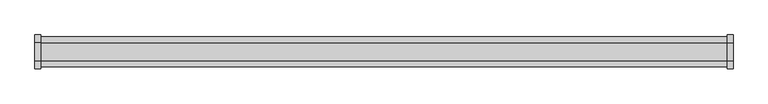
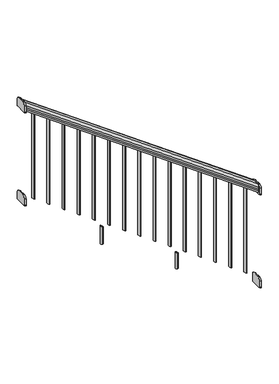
"""IFC4 building model written with IfcOpenShell, lengths in millimetres: railing geometry, NewTechWood - Westminister Gray."""

from ifc_helpers import new_model, si_unit, frame, origin, place, context, project, spatial, polyline, circle_curve, ellipse_curve, source, transform, mapped, element, save
from ifc_brep_helpers import plane_surface, cylinder_surface, revolved_surface, advanced_brep


def railing_d5dcb71c(model_context):
    return source(origin(), model_context, "Body", "AdvancedBrep", [
        advanced_brep(
        [(-13507.1266255, 7738.1316677, 2521.0981601), (-13507.1266255, 7757.8116677, 2545.3373065), (-13507.1266255, 7807.2416677, 2545.3373065), (-13507.1266255, 7826.9216677, 2521.0981601), (-13507.1266255, 7826.9216677, 2470.0210563), (-13507.1266255, 7823.3716677, 2465.6486493), (-13507.1266255, 7741.6816677, 2465.6486493), (-13507.1266255, 7738.1316677, 2470.0210563), (-13492.1266255, 7757.8116677, 2534.5519407), (-13492.1266255, 7738.1316677, 2510.3127942), (-13492.1266255, 7738.1316677, 2459.2356904), (-13492.1266255, 7741.6816677, 2454.8632834), (-13492.1266255, 7823.3716677, 2454.8632834), (-13492.1266255, 7826.9216677, 2459.2356904), (-13492.1266255, 7826.9216677, 2510.3127942), (-13492.1266255, 7807.2416677, 2534.5519407)],
        [
            (0, 1, ellipse_curve(frame((-13507.1266255, 7757.8116677, 2521.0981601), z_axis=(-1.0, 0.0, 0.0), x_axis=(0.0, 0.0, -1.0)), 24.2391464, 19.68)),
            (1, 2),
            (2, 3, ellipse_curve(frame((-13507.1266255, 7807.2416677, 2521.0981601), z_axis=(-1.0, 0.0, 0.0), x_axis=(0.0, 0.0, -1.0)), 24.2391464, 19.68)),
            (3, 4),
            (4, 5, ellipse_curve(frame((-13507.1266255, 7823.3716677, 2470.0210563), z_axis=(-1.0, 0.0, 0.0), x_axis=(0.0, 0.0, -1.0)), 4.372407, 3.55)),
            (5, 6),
            (6, 7, ellipse_curve(frame((-13507.1266255, 7741.6816677, 2470.0210563), z_axis=(-1.0, 0.0, 0.0), x_axis=(0.0, 0.0, -1.0)), 4.372407, 3.55)),
            (7, 0),
            (8, 9, ellipse_curve(frame((-13492.1266255, 7757.8116677, 2510.3127942), z_axis=(1.0, 0.0, 0.0), x_axis=(0.0, 0.0, -1.0)), 24.2391464, 19.68)),
            (9, 10),
            (10, 11, ellipse_curve(frame((-13492.1266255, 7741.6816677, 2459.2356904), z_axis=(1.0, 0.0, 0.0), x_axis=(0.0, 0.0, -1.0)), 4.372407, 3.55)),
            (11, 12),
            (12, 13, ellipse_curve(frame((-13492.1266255, 7823.3716677, 2459.2356904), z_axis=(1.0, 0.0, 0.0), x_axis=(0.0, 0.0, -1.0)), 4.372407, 3.55)),
            (13, 14),
            (14, 15, ellipse_curve(frame((-13492.1266255, 7807.2416677, 2510.3127942), z_axis=(1.0, 0.0, 0.0), x_axis=(0.0, 0.0, -1.0)), 24.2391464, 19.68)),
            (15, 8),
            (8, 1),
            (0, 9),
            (7, 10),
            (6, 11),
            (5, 12),
            (4, 13),
            (3, 14),
            (2, 15),
        ],
        [
            plane_surface(frame((-13507.1266255, 7656.171935, 1697.2264201), z_axis=(-1.0, 0.0, 0.0), x_axis=(0.0, 1.0, 0.0))),
            plane_surface(frame((-13492.1266255, 7656.171935, 2679.4572038), z_axis=(1.0, 0.0, 0.0), x_axis=(0.0, 1.0, 0.0))),
            cylinder_surface(frame((-13456.5393171, 7757.8116677, 2484.7246515), z_axis=(0.8119097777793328, 0.0, -0.5837829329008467), x_axis=(-0.5837829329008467, 0.0, -0.8119097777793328)), 19.68),
            plane_surface(frame((-13456.5393171, 7738.1316677, 2484.7246515), z_axis=(0.0, -1.0, 0.0), x_axis=(-0.8119097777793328, 0.0, 0.5837829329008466))),
            cylinder_surface(frame((-13480.7487953, 7741.6816677, 2451.054753), z_axis=(0.8119097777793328, 0.0, -0.5837829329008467), x_axis=(-0.5837829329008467, 0.0, -0.8119097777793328)), 3.55),
            plane_surface(frame((-13482.8212247, 7741.6816677, 2448.1724733), z_axis=(-0.5837829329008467, 0.0, -0.8119097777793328), x_axis=(-0.8119097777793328, 0.0, 0.5837829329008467))),
            cylinder_surface(frame((-13480.7487953, 7823.3716677, 2451.054753), z_axis=(0.8119097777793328, 0.0, -0.5837829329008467), x_axis=(-0.5837829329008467, 0.0, -0.8119097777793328)), 3.55),
            plane_surface(frame((-13480.7487953, 7826.9216677, 2451.054753), z_axis=(0.0, 1.0, 0.0), x_axis=(-0.8119097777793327, 0.0, 0.5837829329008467))),
            cylinder_surface(frame((-13456.5393171, 7807.2416677, 2484.7246515), z_axis=(0.8119097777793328, 0.0, -0.5837829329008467), x_axis=(-0.5837829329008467, 0.0, -0.8119097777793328)), 19.68),
            plane_surface(frame((-13445.050469, 7807.2416677, 2500.7030359), z_axis=(0.5837829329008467, 0.0, 0.8119097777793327), x_axis=(-0.8119097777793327, 0.0, 0.5837829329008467))),
        ],
        [
            (0, [[1, 2, 3, 4, 5, 6, 7, 8]]),
            (1, [[9, 10, 11, 12, 13, 14, 15, 16]]),
            (2, [[17, -1, 18, -9]]),
            (3, [[-18, -8, 19, -10]]),
            (4, [[-19, -7, 20, -11]]),
            (5, [[-20, -6, 21, -12]]),
            (6, [[-21, -5, 22, -13]]),
            (7, [[-22, -4, 23, -14]]),
            (8, [[-23, -3, 24, -15]]),
            (9, [[-17, -16, -24, -2]]),
        ],
    ),
        advanced_brep(
        [(-15306.1266255, 7757.8116677, 3838.8621846), (-15306.1266255, 7738.1316677, 3814.6230381), (-15306.1266255, 7738.1316677, 3763.5459343), (-15306.1266255, 7741.6816677, 3759.1735273), (-15306.1266255, 7823.3716677, 3759.1735273), (-15306.1266255, 7826.9216677, 3763.5459343), (-15306.1266255, 7826.9216677, 3814.6230381), (-15306.1266255, 7807.2416677, 3838.8621846), (-15321.1266255, 7738.1316677, 3825.408404), (-15321.1266255, 7757.8116677, 3849.6475504), (-15321.1266255, 7807.2416677, 3849.6475504), (-15321.1266255, 7826.9216677, 3825.408404), (-15321.1266255, 7826.9216677, 3774.3313002), (-15321.1266255, 7823.3716677, 3769.9588932), (-15321.1266255, 7741.6816677, 3769.9588932), (-15321.1266255, 7738.1316677, 3774.3313002)],
        [
            (0, 1, ellipse_curve(frame((-15306.1266255, 7757.8116677, 3814.6230381), z_axis=(1.0, 0.0, 0.0), x_axis=(0.0, 0.0, -1.0)), 24.2391464, 19.68)),
            (1, 2),
            (2, 3, ellipse_curve(frame((-15306.1266255, 7741.6816677, 3763.5459343), z_axis=(1.0, 0.0, 0.0), x_axis=(0.0, 0.0, -1.0)), 4.372407, 3.55)),
            (3, 4),
            (4, 5, ellipse_curve(frame((-15306.1266255, 7823.3716677, 3763.5459343), z_axis=(1.0, 0.0, 0.0), x_axis=(0.0, 0.0, -1.0)), 4.372407, 3.55)),
            (5, 6),
            (6, 7, ellipse_curve(frame((-15306.1266255, 7807.2416677, 3814.6230381), z_axis=(1.0, 0.0, 0.0), x_axis=(0.0, 0.0, -1.0)), 24.2391464, 19.68)),
            (7, 0),
            (8, 9, ellipse_curve(frame((-15321.1266255, 7757.8116677, 3825.408404), z_axis=(-1.0, 0.0, 0.0), x_axis=(0.0, 0.0, -1.0)), 24.2391464, 19.68)),
            (9, 10),
            (10, 11, ellipse_curve(frame((-15321.1266255, 7807.2416677, 3825.408404), z_axis=(-1.0, 0.0, 0.0), x_axis=(0.0, 0.0, -1.0)), 24.2391464, 19.68)),
            (11, 12),
            (12, 13, ellipse_curve(frame((-15321.1266255, 7823.3716677, 3774.3313002), z_axis=(-1.0, 0.0, 0.0), x_axis=(0.0, 0.0, -1.0)), 4.372407, 3.55)),
            (13, 14),
            (14, 15, ellipse_curve(frame((-15321.1266255, 7741.6816677, 3774.3313002), z_axis=(-1.0, 0.0, 0.0), x_axis=(0.0, 0.0, -1.0)), 4.372407, 3.55)),
            (15, 8),
            (0, 9),
            (8, 1),
            (15, 2),
            (14, 3),
            (13, 4),
            (12, 5),
            (11, 6),
            (10, 7),
        ],
        [
            plane_surface(frame((-15306.1266255, 7656.171935, 3922.1842505), z_axis=(1.0, 0.0, 0.0), x_axis=(0.0, 1.0, 0.0))),
            plane_surface(frame((-15321.1266255, 7656.171935, 2939.9534667), z_axis=(-1.0, 0.0, 0.0), x_axis=(0.0, 1.0, 0.0))),
            cylinder_surface(frame((-13456.5393171, 7757.8116677, 2484.7246515), z_axis=(0.8119097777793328, 0.0, -0.5837829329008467), x_axis=(-0.5837829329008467, 0.0, -0.8119097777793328)), 19.68),
            plane_surface(frame((-13456.5393171, 7738.1316677, 2484.7246515), z_axis=(0.0, -1.0, 0.0), x_axis=(-0.8119097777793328, 0.0, 0.5837829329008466))),
            cylinder_surface(frame((-13480.7487953, 7741.6816677, 2451.054753), z_axis=(0.8119097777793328, 0.0, -0.5837829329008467), x_axis=(-0.5837829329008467, 0.0, -0.8119097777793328)), 3.55),
            plane_surface(frame((-13482.8212247, 7741.6816677, 2448.1724733), z_axis=(-0.5837829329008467, 0.0, -0.8119097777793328), x_axis=(-0.8119097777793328, 0.0, 0.5837829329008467))),
            cylinder_surface(frame((-13480.7487953, 7823.3716677, 2451.054753), z_axis=(0.8119097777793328, 0.0, -0.5837829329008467), x_axis=(-0.5837829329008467, 0.0, -0.8119097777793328)), 3.55),
            plane_surface(frame((-13480.7487953, 7826.9216677, 2451.054753), z_axis=(0.0, 1.0, 0.0), x_axis=(-0.8119097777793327, 0.0, 0.5837829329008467))),
            cylinder_surface(frame((-13456.5393171, 7807.2416677, 2484.7246515), z_axis=(0.8119097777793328, 0.0, -0.5837829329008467), x_axis=(-0.5837829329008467, 0.0, -0.8119097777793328)), 19.68),
            plane_surface(frame((-13445.050469, 7807.2416677, 2500.7030359), z_axis=(0.5837829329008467, 0.0, 0.8119097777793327), x_axis=(-0.8119097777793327, 0.0, 0.5837829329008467))),
        ],
        [
            (0, [[1, 2, 3, 4, 5, 6, 7, 8]]),
            (1, [[9, 10, 11, 12, 13, 14, 15, 16]]),
            (2, [[17, -9, 18, -1]]),
            (3, [[-18, -16, 19, -2]]),
            (4, [[-19, -15, 20, -3]]),
            (5, [[-20, -14, 21, -4]]),
            (6, [[-21, -13, 22, -5]]),
            (7, [[-22, -12, 23, -6]]),
            (8, [[-23, -11, 24, -7]]),
            (9, [[-17, -8, -24, -10]]),
        ],
    ),
        advanced_brep(
        [(-13507.1266255, 7757.8116677, 1786.3373065), (-13507.1266255, 7807.2416677, 1786.3373065), (-13507.1266255, 7826.9216677, 1762.0981601), (-13507.1266255, 7826.9216677, 1711.0210563), (-13507.1266255, 7823.3716677, 1706.6486493), (-13507.1266255, 7741.6816677, 1706.6486493), (-13507.1266255, 7738.1316677, 1711.0210563), (-13507.1266255, 7738.1316677, 1762.0981601), (-13492.1266255, 7807.2416677, 1775.5519407), (-13492.1266255, 7757.8116677, 1775.5519407), (-13492.1266255, 7738.1316677, 1751.3127942), (-13492.1266255, 7738.1316677, 1700.2356904), (-13492.1266255, 7741.6816677, 1695.8632834), (-13492.1266255, 7823.3716677, 1695.8632834), (-13492.1266255, 7826.9216677, 1700.2356904), (-13492.1266255, 7826.9216677, 1751.3127942)],
        [
            (0, 1),
            (1, 2, ellipse_curve(frame((-13507.1266255, 7807.2416677, 1762.0981601), z_axis=(-1.0, 0.0, 0.0), x_axis=(0.0, 0.0, -1.0)), 24.2391464, 19.68)),
            (2, 3),
            (3, 4, ellipse_curve(frame((-13507.1266255, 7823.3716677, 1711.0210563), z_axis=(-1.0, 0.0, 0.0), x_axis=(0.0, 0.0, -1.0)), 4.372407, 3.55)),
            (4, 5),
            (5, 6, ellipse_curve(frame((-13507.1266255, 7741.6816677, 1711.0210563), z_axis=(-1.0, 0.0, 0.0), x_axis=(0.0, 0.0, -1.0)), 4.372407, 3.55)),
            (6, 7),
            (7, 0, ellipse_curve(frame((-13507.1266255, 7757.8116677, 1762.0981601), z_axis=(-1.0, 0.0, 0.0), x_axis=(0.0, 0.0, -1.0)), 24.2391464, 19.68)),
            (8, 9),
            (9, 10, ellipse_curve(frame((-13492.1266255, 7757.8116677, 1751.3127942), z_axis=(1.0, 0.0, 0.0), x_axis=(0.0, 0.0, -1.0)), 24.2391464, 19.68)),
            (10, 11),
            (11, 12, ellipse_curve(frame((-13492.1266255, 7741.6816677, 1700.2356904), z_axis=(1.0, 0.0, 0.0), x_axis=(0.0, 0.0, -1.0)), 4.372407, 3.55)),
            (12, 13),
            (13, 14, ellipse_curve(frame((-13492.1266255, 7823.3716677, 1700.2356904), z_axis=(1.0, 0.0, 0.0), x_axis=(0.0, 0.0, -1.0)), 4.372407, 3.55)),
            (14, 15),
            (15, 8, ellipse_curve(frame((-13492.1266255, 7807.2416677, 1751.3127942), z_axis=(1.0, 0.0, 0.0), x_axis=(0.0, 0.0, -1.0)), 24.2391464, 19.68)),
            (8, 1),
            (0, 9),
            (7, 10),
            (6, 11),
            (5, 12),
            (4, 13),
            (3, 14),
            (2, 15),
        ],
        [
            plane_surface(frame((-13507.1266255, 7656.171935, 1697.2264201), z_axis=(-1.0, 0.0, 0.0), x_axis=(0.0, 1.0, 0.0))),
            plane_surface(frame((-13492.1266255, 7656.171935, 2679.4572038), z_axis=(1.0, 0.0, 0.0), x_axis=(0.0, 1.0, 0.0))),
            plane_surface(frame((-13447.5313883, 7807.2416677, 1743.4868775), z_axis=(0.5837829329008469, 0.0, 0.8119097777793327), x_axis=(-0.8119097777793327, 0.0, 0.5837829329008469))),
            cylinder_surface(frame((-13459.0202364, 7757.8116677, 1727.508493), z_axis=(0.8119097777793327, 0.0, -0.5837829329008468), x_axis=(-0.5837829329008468, 0.0, -0.8119097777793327)), 19.68),
            plane_surface(frame((-13459.0202364, 7738.1316677, 1727.508493), z_axis=(0.0, -1.0000000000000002, 0.0), x_axis=(-0.8119097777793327, 0.0, 0.5837829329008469))),
            cylinder_surface(frame((-13483.2297147, 7741.6816677, 1693.8385946), z_axis=(0.8119097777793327, 0.0, -0.5837829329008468), x_axis=(-0.5837829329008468, 0.0, -0.8119097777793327)), 3.55),
            plane_surface(frame((-13485.3021441, 7741.6816677, 1690.9563148), z_axis=(-0.5837829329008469, 0.0, -0.8119097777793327), x_axis=(-0.8119097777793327, 0.0, 0.5837829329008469))),
            cylinder_surface(frame((-13483.2297147, 7823.3716677, 1693.8385946), z_axis=(0.8119097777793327, 0.0, -0.5837829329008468), x_axis=(-0.5837829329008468, 0.0, -0.8119097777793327)), 3.55),
            plane_surface(frame((-13483.2297147, 7826.9216677, 1693.8385946), z_axis=(0.0, 1.0000000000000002, 0.0), x_axis=(-0.8119097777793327, 0.0, 0.5837829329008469))),
            cylinder_surface(frame((-13459.0202364, 7807.2416677, 1727.508493), z_axis=(0.8119097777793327, 0.0, -0.5837829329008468), x_axis=(-0.5837829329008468, 0.0, -0.8119097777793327)), 19.68),
        ],
        [
            (0, [[1, 2, 3, 4, 5, 6, 7, 8]]),
            (1, [[9, 10, 11, 12, 13, 14, 15, 16]]),
            (2, [[17, -1, 18, -9]]),
            (3, [[-18, -8, 19, -10]]),
            (4, [[-19, -7, 20, -11]]),
            (5, [[-20, -6, 21, -12]]),
            (6, [[-21, -5, 22, -13]]),
            (7, [[-22, -4, 23, -14]]),
            (8, [[-23, -3, 24, -15]]),
            (9, [[-17, -16, -24, -2]]),
        ],
    ),
        advanced_brep(
        [(-15306.1266255, 7807.2416677, 3079.8621846), (-15306.1266255, 7757.8116677, 3079.8621846), (-15306.1266255, 7738.1316677, 3055.6230381), (-15306.1266255, 7738.1316677, 3004.5459343), (-15306.1266255, 7741.6816677, 3000.1735273), (-15306.1266255, 7823.3716677, 3000.1735273), (-15306.1266255, 7826.9216677, 3004.5459343), (-15306.1266255, 7826.9216677, 3055.6230381), (-15321.1266255, 7757.8116677, 3090.6475504), (-15321.1266255, 7807.2416677, 3090.6475504), (-15321.1266255, 7826.9216677, 3066.408404), (-15321.1266255, 7826.9216677, 3015.3313002), (-15321.1266255, 7823.3716677, 3010.9588932), (-15321.1266255, 7741.6816677, 3010.9588932), (-15321.1266255, 7738.1316677, 3015.3313002), (-15321.1266255, 7738.1316677, 3066.408404)],
        [
            (0, 1),
            (1, 2, ellipse_curve(frame((-15306.1266255, 7757.8116677, 3055.6230381), z_axis=(1.0, 0.0, 0.0), x_axis=(0.0, 0.0, -1.0)), 24.2391464, 19.68)),
            (2, 3),
            (3, 4, ellipse_curve(frame((-15306.1266255, 7741.6816677, 3004.5459343), z_axis=(1.0, 0.0, 0.0), x_axis=(0.0, 0.0, -1.0)), 4.372407, 3.55)),
            (4, 5),
            (5, 6, ellipse_curve(frame((-15306.1266255, 7823.3716677, 3004.5459343), z_axis=(1.0, 0.0, 0.0), x_axis=(0.0, 0.0, -1.0)), 4.372407, 3.55)),
            (6, 7),
            (7, 0, ellipse_curve(frame((-15306.1266255, 7807.2416677, 3055.6230381), z_axis=(1.0, 0.0, 0.0), x_axis=(0.0, 0.0, -1.0)), 24.2391464, 19.68)),
            (8, 9),
            (9, 10, ellipse_curve(frame((-15321.1266255, 7807.2416677, 3066.408404), z_axis=(-1.0, 0.0, 0.0), x_axis=(0.0, 0.0, -1.0)), 24.2391464, 19.68)),
            (10, 11),
            (11, 12, ellipse_curve(frame((-15321.1266255, 7823.3716677, 3015.3313002), z_axis=(-1.0, 0.0, 0.0), x_axis=(0.0, 0.0, -1.0)), 4.372407, 3.55)),
            (12, 13),
            (13, 14, ellipse_curve(frame((-15321.1266255, 7741.6816677, 3015.3313002), z_axis=(-1.0, 0.0, 0.0), x_axis=(0.0, 0.0, -1.0)), 4.372407, 3.55)),
            (14, 15),
            (15, 8, ellipse_curve(frame((-15321.1266255, 7757.8116677, 3066.408404), z_axis=(-1.0, 0.0, 0.0), x_axis=(0.0, 0.0, -1.0)), 24.2391464, 19.68)),
            (0, 9),
            (8, 1),
            (15, 2),
            (14, 3),
            (13, 4),
            (12, 5),
            (11, 6),
            (10, 7),
        ],
        [
            plane_surface(frame((-15306.1266255, 7656.171935, 3922.1842505), z_axis=(1.0, 0.0, 0.0), x_axis=(0.0, 1.0, 0.0))),
            plane_surface(frame((-15321.1266255, 7656.171935, 2939.9534667), z_axis=(-1.0, 0.0, 0.0), x_axis=(0.0, 1.0, 0.0))),
            plane_surface(frame((-13447.5313883, 7807.2416677, 1743.4868775), z_axis=(0.5837829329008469, 0.0, 0.8119097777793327), x_axis=(-0.8119097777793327, 0.0, 0.5837829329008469))),
            cylinder_surface(frame((-13459.0202364, 7757.8116677, 1727.508493), z_axis=(0.8119097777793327, 0.0, -0.5837829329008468), x_axis=(-0.5837829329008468, 0.0, -0.8119097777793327)), 19.68),
            plane_surface(frame((-13459.0202364, 7738.1316677, 1727.508493), z_axis=(0.0, -1.0000000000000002, 0.0), x_axis=(-0.8119097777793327, 0.0, 0.5837829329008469))),
            cylinder_surface(frame((-13483.2297147, 7741.6816677, 1693.8385946), z_axis=(0.8119097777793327, 0.0, -0.5837829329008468), x_axis=(-0.5837829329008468, 0.0, -0.8119097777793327)), 3.55),
            plane_surface(frame((-13485.3021441, 7741.6816677, 1690.9563148), z_axis=(-0.5837829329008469, 0.0, -0.8119097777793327), x_axis=(-0.8119097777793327, 0.0, 0.5837829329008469))),
            cylinder_surface(frame((-13483.2297147, 7823.3716677, 1693.8385946), z_axis=(0.8119097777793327, 0.0, -0.5837829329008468), x_axis=(-0.5837829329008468, 0.0, -0.8119097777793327)), 3.55),
            plane_surface(frame((-13483.2297147, 7826.9216677, 1693.8385946), z_axis=(0.0, 1.0000000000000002, 0.0), x_axis=(-0.8119097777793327, 0.0, 0.5837829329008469))),
            cylinder_surface(frame((-13459.0202364, 7807.2416677, 1727.508493), z_axis=(0.8119097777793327, 0.0, -0.5837829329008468), x_axis=(-0.5837829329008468, 0.0, -0.8119097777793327)), 19.68),
        ],
        [
            (0, [[1, 2, 3, 4, 5, 6, 7, 8]]),
            (1, [[9, 10, 11, 12, 13, 14, 15, 16]]),
            (2, [[17, -9, 18, -1]]),
            (3, [[-18, -16, 19, -2]]),
            (4, [[-19, -15, 20, -3]]),
            (5, [[-20, -14, 21, -4]]),
            (6, [[-21, -13, 22, -5]]),
            (7, [[-22, -12, 23, -6]]),
            (8, [[-23, -11, 24, -7]]),
            (9, [[-17, -8, -24, -10]]),
        ],
    ),
        advanced_brep(
        [(-14117.1266579, 7792.0266677, 2178.4771208), (-14117.1266579, 7773.0266677, 2178.4771208), (-14107.6266579, 7782.5266677, 2171.6463891), (-14117.1266579, 7792.0266677, 2051.7726459), (-14117.1266579, 7773.0266677, 2051.7726459), (-14107.6266579, 7782.5266677, 2051.7726459)],
        [
            (0, 1, ellipse_curve(frame((-14117.1266579, 7782.5266677, 2178.4771208), z_axis=(0.5837829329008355, 0.0, 0.8119097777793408), x_axis=(-0.8119097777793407, 0.0, 0.5837829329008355)), 11.7008075, 9.5)),
            (1, 2, ellipse_curve(frame((-14117.1266579, 7782.5266677, 2178.4771208), z_axis=(0.5837829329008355, 0.0, 0.8119097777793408), x_axis=(-0.8119097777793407, 0.0, 0.5837829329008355)), 11.7008075, 9.5)),
            (2, 0, ellipse_curve(frame((-14117.1266579, 7782.5266677, 2178.4771208), z_axis=(0.5837829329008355, 0.0, 0.8119097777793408), x_axis=(-0.8119097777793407, 0.0, 0.5837829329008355)), 11.7008075, 9.5)),
            (0, 3),
            (3, 4, circle_curve(frame((-14117.1266579, 7782.5266677, 2051.7726459), z_axis=(0.0, 0.0, 1.0), x_axis=(0.0, -1.0, 0.0)), 9.5)),
            (4, 1),
            (4, 5, circle_curve(frame((-14117.1266579, 7782.5266677, 2051.7726459), z_axis=(0.0, 0.0, 1.0), x_axis=(0.0, -1.0, 0.0)), 9.5)),
            (5, 3, circle_curve(frame((-14117.1266579, 7782.5266677, 2051.7726459), z_axis=(0.0, 0.0, 1.0), x_axis=(0.0, -1.0, 0.0)), 9.5)),
        ],
        [
            plane_surface(frame((-14705.626593, 7632.5266677, 2601.6229278), z_axis=(0.5837829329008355, 0.0, 0.8119097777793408), x_axis=(0.0, 1.0, 0.0))),
            cylinder_surface(frame((-14117.1266579, 7782.5266677, 949.9254898), z_axis=(0.0, 0.0, 1.0), x_axis=(0.0, -1.0, 0.0)), 9.5),
            plane_surface(frame((-14107.6266579, 7632.5266677, 2051.7726459), z_axis=(0.0, 0.0, -1.0), x_axis=(0.0, 1.0, 0.0))),
        ],
        [
            (0, [[1, 2, 3]]),
            (1, [[4, 5, 6, -1]]),
            (1, [[-4, -3, -2, -6, 7, 8]]),
            (2, [[-5, -8, -7]]),
        ],
    ),
        advanced_brep(
        [(-14696.126593, 7792.0266677, 2594.7921961), (-14705.626593, 7782.5266677, 2601.6229278), (-14696.126593, 7773.0266677, 2594.7921961), (-14696.126593, 7792.0266677, 2453.7209705), (-14705.626593, 7782.5266677, 2453.7209705), (-14696.126593, 7773.0266677, 2453.7209705)],
        [
            (0, 1, ellipse_curve(frame((-14696.126593, 7782.5266677, 2594.7921961), z_axis=(0.5837829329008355, 0.0, 0.8119097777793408), x_axis=(-0.8119097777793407, 0.0, 0.5837829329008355)), 11.7008075, 9.5)),
            (1, 2, ellipse_curve(frame((-14696.126593, 7782.5266677, 2594.7921961), z_axis=(0.5837829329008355, 0.0, 0.8119097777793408), x_axis=(-0.8119097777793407, 0.0, 0.5837829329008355)), 11.7008075, 9.5)),
            (2, 0, ellipse_curve(frame((-14696.126593, 7782.5266677, 2594.7921961), z_axis=(0.5837829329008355, 0.0, 0.8119097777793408), x_axis=(-0.8119097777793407, 0.0, 0.5837829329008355)), 11.7008075, 9.5)),
            (0, 3),
            (3, 4, circle_curve(frame((-14696.126593, 7782.5266677, 2453.7209705), z_axis=(0.0, 0.0, 1.0), x_axis=(0.0, -1.0, 0.0)), 9.5)),
            (4, 5, circle_curve(frame((-14696.126593, 7782.5266677, 2453.7209705), z_axis=(0.0, 0.0, 1.0), x_axis=(0.0, -1.0, 0.0)), 9.5)),
            (5, 2),
            (5, 3, circle_curve(frame((-14696.126593, 7782.5266677, 2453.7209705), z_axis=(0.0, 0.0, 1.0), x_axis=(0.0, -1.0, 0.0)), 9.5)),
        ],
        [
            plane_surface(frame((-14705.626593, 7632.5266677, 2601.6229278), z_axis=(0.5837829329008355, 0.0, 0.8119097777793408), x_axis=(0.0, 1.0, 0.0))),
            cylinder_surface(frame((-14696.126593, 7782.5266677, 2265.5054169), z_axis=(0.0, 0.0, 1.0), x_axis=(0.0, -1.0, 0.0)), 9.5),
            plane_surface(frame((-14686.126593, 7632.5266677, 2453.7209705), z_axis=(0.0, 0.0, -1.0), x_axis=(0.0, 1.0, 0.0))),
        ],
        [
            (0, [[1, 2, 3]]),
            (1, [[4, 5, 6, 7, -2, -1]]),
            (1, [[-4, -3, -7, 8]]),
            (2, [[-5, -8, -6]]),
        ],
    ),
        advanced_brep(
        [(-14055.8837683, 7792.1266677, 2872.4127479), (-14055.8837683, 7772.9266677, 2872.4127479), (-14055.8837683, 7772.9266677, 2168.3127479), (-14055.8837683, 7792.1266677, 2168.3127479)],
        [
            (0, 1, ellipse_curve(frame((-14055.8837683, 7782.5266677, 2872.4127479), z_axis=(0.5837829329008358, 0.0, 0.8119097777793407), x_axis=(-0.8119097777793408, 0.0, 0.5837829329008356)), 11.8239739, 9.6)),
            (1, 0, ellipse_curve(frame((-14055.8837683, 7782.5266677, 2872.4127479), z_axis=(0.5837829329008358, 0.0, 0.8119097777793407), x_axis=(-0.8119097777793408, 0.0, 0.5837829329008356)), 11.8239739, 9.6)),
            (2, 3, ellipse_curve(frame((-14055.8837683, 7782.5266677, 2168.3127479), z_axis=(-0.5837829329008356, 0.0, -0.8119097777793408), x_axis=(-0.8119097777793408, 0.0, 0.5837829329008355)), 11.8239739, 9.6)),
            (3, 2, ellipse_curve(frame((-14055.8837683, 7782.5266677, 2168.3127479), z_axis=(-0.5837829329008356, 0.0, -0.8119097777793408), x_axis=(-0.8119097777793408, 0.0, 0.5837829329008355)), 11.8239739, 9.6)),
            (0, 3),
            (2, 1),
        ],
        [
            plane_surface(frame((-15321.1266255, 7532.5266677, 3782.1532218), z_axis=(0.5837829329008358, 0.0, 0.8119097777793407), x_axis=(0.0, 1.0, 0.0))),
            plane_surface(frame((-13492.1266255, 7532.5266677, 1762.957612), z_axis=(-0.5837829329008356, 0.0, -0.8119097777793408), x_axis=(0.0, 1.0, 0.0))),
            cylinder_surface(frame((-14055.8837683, 7782.5266677, 2265.5054169), z_axis=(0.0, 0.0, 1.0), x_axis=(0.0, -1.0, 0.0)), 9.6),
        ],
        [
            (0, [[1, 2]]),
            (1, [[3, 4]]),
            (2, [[5, -3, 6, -1]]),
            (2, [[-5, -2, -6, -4]]),
        ],
    ),
        advanced_brep(
        [(-14172.798054, 7792.1266677, 2956.4769709), (-14172.798054, 7772.9266677, 2956.4769709), (-14172.798054, 7772.9266677, 2252.3769709), (-14172.798054, 7792.1266677, 2252.3769709)],
        [
            (0, 1, ellipse_curve(frame((-14172.798054, 7782.5266677, 2956.4769709), z_axis=(0.5837829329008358, 0.0, 0.8119097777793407), x_axis=(-0.8119097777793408, 0.0, 0.5837829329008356)), 11.8239739, 9.6)),
            (1, 0, ellipse_curve(frame((-14172.798054, 7782.5266677, 2956.4769709), z_axis=(0.5837829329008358, 0.0, 0.8119097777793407), x_axis=(-0.8119097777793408, 0.0, 0.5837829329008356)), 11.8239739, 9.6)),
            (2, 3, ellipse_curve(frame((-14172.798054, 7782.5266677, 2252.3769709), z_axis=(-0.5837829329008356, 0.0, -0.8119097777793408), x_axis=(-0.8119097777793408, 0.0, 0.5837829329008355)), 11.8239739, 9.6)),
            (3, 2, ellipse_curve(frame((-14172.798054, 7782.5266677, 2252.3769709), z_axis=(-0.5837829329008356, 0.0, -0.8119097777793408), x_axis=(-0.8119097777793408, 0.0, 0.5837829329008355)), 11.8239739, 9.6)),
            (0, 3),
            (2, 1),
        ],
        [
            plane_surface(frame((-15321.1266255, 7532.5266677, 3782.1532218), z_axis=(0.5837829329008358, 0.0, 0.8119097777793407), x_axis=(0.0, 1.0, 0.0))),
            plane_surface(frame((-13492.1266255, 7532.5266677, 1762.957612), z_axis=(-0.5837829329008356, 0.0, -0.8119097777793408), x_axis=(0.0, 1.0, 0.0))),
            cylinder_surface(frame((-14172.798054, 7782.5266677, 2265.5054169), z_axis=(0.0, 0.0, 1.0), x_axis=(0.0, -1.0, 0.0)), 9.6),
        ],
        [
            (0, [[1, 2]]),
            (1, [[3, 4]]),
            (2, [[5, -3, 6, -1]]),
            (2, [[-5, -2, -6, -4]]),
        ],
    ),
        advanced_brep(
        [(-14289.7123397, 7792.1266677, 3040.5411939), (-14289.7123397, 7772.9266677, 3040.5411939), (-14289.7123397, 7772.9266677, 2336.4411939), (-14289.7123397, 7792.1266677, 2336.4411939)],
        [
            (0, 1, ellipse_curve(frame((-14289.7123397, 7782.5266677, 3040.5411939), z_axis=(0.5837829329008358, 0.0, 0.8119097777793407), x_axis=(-0.8119097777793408, 0.0, 0.5837829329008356)), 11.8239739, 9.6)),
            (1, 0, ellipse_curve(frame((-14289.7123397, 7782.5266677, 3040.5411939), z_axis=(0.5837829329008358, 0.0, 0.8119097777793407), x_axis=(-0.8119097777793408, 0.0, 0.5837829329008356)), 11.8239739, 9.6)),
            (2, 3, ellipse_curve(frame((-14289.7123397, 7782.5266677, 2336.4411939), z_axis=(-0.5837829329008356, 0.0, -0.8119097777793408), x_axis=(-0.8119097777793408, 0.0, 0.5837829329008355)), 11.8239739, 9.6)),
            (3, 2, ellipse_curve(frame((-14289.7123397, 7782.5266677, 2336.4411939), z_axis=(-0.5837829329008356, 0.0, -0.8119097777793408), x_axis=(-0.8119097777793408, 0.0, 0.5837829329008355)), 11.8239739, 9.6)),
            (0, 3),
            (2, 1),
        ],
        [
            plane_surface(frame((-15321.1266255, 7532.5266677, 3782.1532218), z_axis=(0.5837829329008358, 0.0, 0.8119097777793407), x_axis=(0.0, 1.0, 0.0))),
            plane_surface(frame((-13492.1266255, 7532.5266677, 1762.957612), z_axis=(-0.5837829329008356, 0.0, -0.8119097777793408), x_axis=(0.0, 1.0, 0.0))),
            cylinder_surface(frame((-14289.7123397, 7782.5266677, 2265.5054169), z_axis=(0.0, 0.0, 1.0), x_axis=(0.0, -1.0, 0.0)), 9.6),
        ],
        [
            (0, [[1, 2]]),
            (1, [[3, 4]]),
            (2, [[5, -3, 6, -1]]),
            (2, [[-5, -2, -6, -4]]),
        ],
    ),
        advanced_brep(
        [(-14406.6266255, 7792.1266677, 3124.6054169), (-14406.6266255, 7772.9266677, 3124.6054169), (-14406.6266255, 7772.9266677, 2420.5054169), (-14406.6266255, 7792.1266677, 2420.5054169)],
        [
            (0, 1, ellipse_curve(frame((-14406.6266255, 7782.5266677, 3124.6054169), z_axis=(0.5837829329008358, 0.0, 0.8119097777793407), x_axis=(-0.8119097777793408, 0.0, 0.5837829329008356)), 11.8239739, 9.6)),
            (1, 0, ellipse_curve(frame((-14406.6266255, 7782.5266677, 3124.6054169), z_axis=(0.5837829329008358, 0.0, 0.8119097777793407), x_axis=(-0.8119097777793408, 0.0, 0.5837829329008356)), 11.8239739, 9.6)),
            (2, 3, ellipse_curve(frame((-14406.6266255, 7782.5266677, 2420.5054169), z_axis=(-0.5837829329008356, 0.0, -0.8119097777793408), x_axis=(-0.8119097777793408, 0.0, 0.5837829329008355)), 11.8239739, 9.6)),
            (3, 2, ellipse_curve(frame((-14406.6266255, 7782.5266677, 2420.5054169), z_axis=(-0.5837829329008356, 0.0, -0.8119097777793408), x_axis=(-0.8119097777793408, 0.0, 0.5837829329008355)), 11.8239739, 9.6)),
            (0, 3),
            (2, 1),
        ],
        [
            plane_surface(frame((-15321.1266255, 7532.5266677, 3782.1532218), z_axis=(0.5837829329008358, 0.0, 0.8119097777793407), x_axis=(0.0, 1.0, 0.0))),
            plane_surface(frame((-13492.1266255, 7532.5266677, 1762.957612), z_axis=(-0.5837829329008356, 0.0, -0.8119097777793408), x_axis=(0.0, 1.0, 0.0))),
            cylinder_surface(frame((-14406.6266255, 7782.5266677, 2265.5054169), z_axis=(0.0, 0.0, 1.0), x_axis=(0.0, -1.0, 0.0)), 9.6),
        ],
        [
            (0, [[1, 2]]),
            (1, [[3, 4]]),
            (2, [[5, -3, 6, -1]]),
            (2, [[-5, -2, -6, -4]]),
        ],
    ),
        advanced_brep(
        [(-14523.5409112, 7792.1266677, 3208.6696399), (-14523.5409112, 7772.9266677, 3208.6696399), (-14523.5409112, 7772.9266677, 2504.5696399), (-14523.5409112, 7792.1266677, 2504.5696399)],
        [
            (0, 1, ellipse_curve(frame((-14523.5409112, 7782.5266677, 3208.6696399), z_axis=(0.5837829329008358, 0.0, 0.8119097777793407), x_axis=(-0.8119097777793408, 0.0, 0.5837829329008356)), 11.8239739, 9.6)),
            (1, 0, ellipse_curve(frame((-14523.5409112, 7782.5266677, 3208.6696399), z_axis=(0.5837829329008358, 0.0, 0.8119097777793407), x_axis=(-0.8119097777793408, 0.0, 0.5837829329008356)), 11.8239739, 9.6)),
            (2, 3, ellipse_curve(frame((-14523.5409112, 7782.5266677, 2504.5696399), z_axis=(-0.5837829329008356, 0.0, -0.8119097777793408), x_axis=(-0.8119097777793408, 0.0, 0.5837829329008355)), 11.8239739, 9.6)),
            (3, 2, ellipse_curve(frame((-14523.5409112, 7782.5266677, 2504.5696399), z_axis=(-0.5837829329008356, 0.0, -0.8119097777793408), x_axis=(-0.8119097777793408, 0.0, 0.5837829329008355)), 11.8239739, 9.6)),
            (0, 3),
            (2, 1),
        ],
        [
            plane_surface(frame((-15321.1266255, 7532.5266677, 3782.1532218), z_axis=(0.5837829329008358, 0.0, 0.8119097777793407), x_axis=(0.0, 1.0, 0.0))),
            plane_surface(frame((-13492.1266255, 7532.5266677, 1762.957612), z_axis=(-0.5837829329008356, 0.0, -0.8119097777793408), x_axis=(0.0, 1.0, 0.0))),
            cylinder_surface(frame((-14523.5409112, 7782.5266677, 2265.5054169), z_axis=(0.0, 0.0, 1.0), x_axis=(0.0, -1.0, 0.0)), 9.6),
        ],
        [
            (0, [[1, 2]]),
            (1, [[3, 4]]),
            (2, [[5, -3, 6, -1]]),
            (2, [[-5, -2, -6, -4]]),
        ],
    ),
        advanced_brep(
        [(-14640.4551969, 7792.1266677, 3292.7338629), (-14640.4551969, 7772.9266677, 3292.7338629), (-14640.4551969, 7772.9266677, 2588.6338629), (-14640.4551969, 7792.1266677, 2588.6338629)],
        [
            (0, 1, ellipse_curve(frame((-14640.4551969, 7782.5266677, 3292.7338629), z_axis=(0.5837829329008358, 0.0, 0.8119097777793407), x_axis=(-0.8119097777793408, 0.0, 0.5837829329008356)), 11.8239739, 9.6)),
            (1, 0, ellipse_curve(frame((-14640.4551969, 7782.5266677, 3292.7338629), z_axis=(0.5837829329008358, 0.0, 0.8119097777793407), x_axis=(-0.8119097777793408, 0.0, 0.5837829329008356)), 11.8239739, 9.6)),
            (2, 3, ellipse_curve(frame((-14640.4551969, 7782.5266677, 2588.6338629), z_axis=(-0.5837829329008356, 0.0, -0.8119097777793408), x_axis=(-0.8119097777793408, 0.0, 0.5837829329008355)), 11.8239739, 9.6)),
            (3, 2, ellipse_curve(frame((-14640.4551969, 7782.5266677, 2588.6338629), z_axis=(-0.5837829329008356, 0.0, -0.8119097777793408), x_axis=(-0.8119097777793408, 0.0, 0.5837829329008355)), 11.8239739, 9.6)),
            (0, 3),
            (2, 1),
        ],
        [
            plane_surface(frame((-15321.1266255, 7532.5266677, 3782.1532218), z_axis=(0.5837829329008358, 0.0, 0.8119097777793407), x_axis=(0.0, 1.0, 0.0))),
            plane_surface(frame((-13492.1266255, 7532.5266677, 1762.957612), z_axis=(-0.5837829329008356, 0.0, -0.8119097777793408), x_axis=(0.0, 1.0, 0.0))),
            cylinder_surface(frame((-14640.4551969, 7782.5266677, 2265.5054169), z_axis=(0.0, 0.0, 1.0), x_axis=(0.0, -1.0, 0.0)), 9.6),
        ],
        [
            (0, [[1, 2]]),
            (1, [[3, 4]]),
            (2, [[5, -3, 6, -1]]),
            (2, [[-5, -2, -6, -4]]),
        ],
    ),
        advanced_brep(
        [(-14757.3694826, 7792.1266677, 3376.7980859), (-14757.3694826, 7772.9266677, 3376.7980859), (-14757.3694826, 7772.9266677, 2672.6980859), (-14757.3694826, 7792.1266677, 2672.6980859)],
        [
            (0, 1, ellipse_curve(frame((-14757.3694826, 7782.5266677, 3376.7980859), z_axis=(0.5837829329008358, 0.0, 0.8119097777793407), x_axis=(-0.8119097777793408, 0.0, 0.5837829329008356)), 11.8239739, 9.6)),
            (1, 0, ellipse_curve(frame((-14757.3694826, 7782.5266677, 3376.7980859), z_axis=(0.5837829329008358, 0.0, 0.8119097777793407), x_axis=(-0.8119097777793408, 0.0, 0.5837829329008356)), 11.8239739, 9.6)),
            (2, 3, ellipse_curve(frame((-14757.3694826, 7782.5266677, 2672.6980859), z_axis=(-0.5837829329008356, 0.0, -0.8119097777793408), x_axis=(-0.8119097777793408, 0.0, 0.5837829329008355)), 11.8239739, 9.6)),
            (3, 2, ellipse_curve(frame((-14757.3694826, 7782.5266677, 2672.6980859), z_axis=(-0.5837829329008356, 0.0, -0.8119097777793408), x_axis=(-0.8119097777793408, 0.0, 0.5837829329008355)), 11.8239739, 9.6)),
            (0, 3),
            (2, 1),
        ],
        [
            plane_surface(frame((-15321.1266255, 7532.5266677, 3782.1532218), z_axis=(0.5837829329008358, 0.0, 0.8119097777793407), x_axis=(0.0, 1.0, 0.0))),
            plane_surface(frame((-13492.1266255, 7532.5266677, 1762.957612), z_axis=(-0.5837829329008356, 0.0, -0.8119097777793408), x_axis=(0.0, 1.0, 0.0))),
            cylinder_surface(frame((-14757.3694826, 7782.5266677, 2265.5054169), z_axis=(0.0, 0.0, 1.0), x_axis=(0.0, -1.0, 0.0)), 9.6),
        ],
        [
            (0, [[1, 2]]),
            (1, [[3, 4]]),
            (2, [[5, -3, 6, -1]]),
            (2, [[-5, -2, -6, -4]]),
        ],
    ),
        advanced_brep(
        [(-13588.2266255, 7792.1266677, 2536.1558559), (-13588.2266255, 7772.9266677, 2536.1558559), (-13588.2266255, 7772.9266677, 1832.0558559), (-13588.2266255, 7792.1266677, 1832.0558559)],
        [
            (0, 1, ellipse_curve(frame((-13588.2266255, 7782.5266677, 2536.1558559), z_axis=(0.5837829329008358, 0.0, 0.8119097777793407), x_axis=(-0.8119097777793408, 0.0, 0.5837829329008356)), 11.8239739, 9.6)),
            (1, 0, ellipse_curve(frame((-13588.2266255, 7782.5266677, 2536.1558559), z_axis=(0.5837829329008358, 0.0, 0.8119097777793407), x_axis=(-0.8119097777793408, 0.0, 0.5837829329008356)), 11.8239739, 9.6)),
            (2, 3, ellipse_curve(frame((-13588.2266255, 7782.5266677, 1832.0558559), z_axis=(-0.5837829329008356, 0.0, -0.8119097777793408), x_axis=(-0.8119097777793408, 0.0, 0.5837829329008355)), 11.8239739, 9.6)),
            (3, 2, ellipse_curve(frame((-13588.2266255, 7782.5266677, 1832.0558559), z_axis=(-0.5837829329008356, 0.0, -0.8119097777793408), x_axis=(-0.8119097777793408, 0.0, 0.5837829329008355)), 11.8239739, 9.6)),
            (0, 3),
            (2, 1),
        ],
        [
            plane_surface(frame((-15321.1266255, 7532.5266677, 3782.1532218), z_axis=(0.5837829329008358, 0.0, 0.8119097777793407), x_axis=(0.0, 1.0, 0.0))),
            plane_surface(frame((-13492.1266255, 7532.5266677, 1762.957612), z_axis=(-0.5837829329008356, 0.0, -0.8119097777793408), x_axis=(0.0, 1.0, 0.0))),
            cylinder_surface(frame((-13588.2266255, 7782.5266677, 949.9254898), z_axis=(0.0, 0.0, 1.0), x_axis=(0.0, -1.0, 0.0)), 9.6),
        ],
        [
            (0, [[1, 2]]),
            (1, [[3, 4]]),
            (2, [[5, -3, 6, -1]]),
            (2, [[-5, -2, -6, -4]]),
        ],
    ),
        advanced_brep(
        [(-13705.1409112, 7792.1266677, 2620.2200789), (-13705.1409112, 7772.9266677, 2620.2200789), (-13705.1409112, 7772.9266677, 1916.1200789), (-13705.1409112, 7792.1266677, 1916.1200789)],
        [
            (0, 1, ellipse_curve(frame((-13705.1409112, 7782.5266677, 2620.2200789), z_axis=(0.5837829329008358, 0.0, 0.8119097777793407), x_axis=(-0.8119097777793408, 0.0, 0.5837829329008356)), 11.8239739, 9.6)),
            (1, 0, ellipse_curve(frame((-13705.1409112, 7782.5266677, 2620.2200789), z_axis=(0.5837829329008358, 0.0, 0.8119097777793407), x_axis=(-0.8119097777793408, 0.0, 0.5837829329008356)), 11.8239739, 9.6)),
            (2, 3, ellipse_curve(frame((-13705.1409112, 7782.5266677, 1916.1200789), z_axis=(-0.5837829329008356, 0.0, -0.8119097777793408), x_axis=(-0.8119097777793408, 0.0, 0.5837829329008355)), 11.8239739, 9.6)),
            (3, 2, ellipse_curve(frame((-13705.1409112, 7782.5266677, 1916.1200789), z_axis=(-0.5837829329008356, 0.0, -0.8119097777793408), x_axis=(-0.8119097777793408, 0.0, 0.5837829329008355)), 11.8239739, 9.6)),
            (0, 3),
            (2, 1),
        ],
        [
            plane_surface(frame((-15321.1266255, 7532.5266677, 3782.1532218), z_axis=(0.5837829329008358, 0.0, 0.8119097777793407), x_axis=(0.0, 1.0, 0.0))),
            plane_surface(frame((-13492.1266255, 7532.5266677, 1762.957612), z_axis=(-0.5837829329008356, 0.0, -0.8119097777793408), x_axis=(0.0, 1.0, 0.0))),
            cylinder_surface(frame((-13705.1409112, 7782.5266677, 2265.5054169), z_axis=(0.0, 0.0, 1.0), x_axis=(0.0, -1.0, 0.0)), 9.6),
        ],
        [
            (0, [[1, 2]]),
            (1, [[3, 4]]),
            (2, [[5, -3, 6, -1]]),
            (2, [[-5, -2, -6, -4]]),
        ],
    ),
        advanced_brep(
        [(-13822.0551969, 7792.1266677, 2704.2843019), (-13822.0551969, 7772.9266677, 2704.2843019), (-13822.0551969, 7772.9266677, 2000.1843019), (-13822.0551969, 7792.1266677, 2000.1843019)],
        [
            (0, 1, ellipse_curve(frame((-13822.0551969, 7782.5266677, 2704.2843019), z_axis=(0.5837829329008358, 0.0, 0.8119097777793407), x_axis=(-0.8119097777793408, 0.0, 0.5837829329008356)), 11.8239739, 9.6)),
            (1, 0, ellipse_curve(frame((-13822.0551969, 7782.5266677, 2704.2843019), z_axis=(0.5837829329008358, 0.0, 0.8119097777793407), x_axis=(-0.8119097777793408, 0.0, 0.5837829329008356)), 11.8239739, 9.6)),
            (2, 3, ellipse_curve(frame((-13822.0551969, 7782.5266677, 2000.1843019), z_axis=(-0.5837829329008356, 0.0, -0.8119097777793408), x_axis=(-0.8119097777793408, 0.0, 0.5837829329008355)), 11.8239739, 9.6)),
            (3, 2, ellipse_curve(frame((-13822.0551969, 7782.5266677, 2000.1843019), z_axis=(-0.5837829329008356, 0.0, -0.8119097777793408), x_axis=(-0.8119097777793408, 0.0, 0.5837829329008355)), 11.8239739, 9.6)),
            (0, 3),
            (2, 1),
        ],
        [
            plane_surface(frame((-15321.1266255, 7532.5266677, 3782.1532218), z_axis=(0.5837829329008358, 0.0, 0.8119097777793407), x_axis=(0.0, 1.0, 0.0))),
            plane_surface(frame((-13492.1266255, 7532.5266677, 1762.957612), z_axis=(-0.5837829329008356, 0.0, -0.8119097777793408), x_axis=(0.0, 1.0, 0.0))),
            cylinder_surface(frame((-13822.0551969, 7782.5266677, 2265.5054169), z_axis=(0.0, 0.0, 1.0), x_axis=(0.0, -1.0, 0.0)), 9.6),
        ],
        [
            (0, [[1, 2]]),
            (1, [[3, 4]]),
            (2, [[5, -3, 6, -1]]),
            (2, [[-5, -2, -6, -4]]),
        ],
    ),
        advanced_brep(
        [(-13938.9694826, 7792.1266677, 2788.3485249), (-13938.9694826, 7772.9266677, 2788.3485249), (-13938.9694826, 7772.9266677, 2084.2485249), (-13938.9694826, 7792.1266677, 2084.2485249)],
        [
            (0, 1, ellipse_curve(frame((-13938.9694826, 7782.5266677, 2788.3485249), z_axis=(0.5837829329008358, 0.0, 0.8119097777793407), x_axis=(-0.8119097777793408, 0.0, 0.5837829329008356)), 11.8239739, 9.6)),
            (1, 0, ellipse_curve(frame((-13938.9694826, 7782.5266677, 2788.3485249), z_axis=(0.5837829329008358, 0.0, 0.8119097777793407), x_axis=(-0.8119097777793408, 0.0, 0.5837829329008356)), 11.8239739, 9.6)),
            (2, 3, ellipse_curve(frame((-13938.9694826, 7782.5266677, 2084.2485249), z_axis=(-0.5837829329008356, 0.0, -0.8119097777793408), x_axis=(-0.8119097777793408, 0.0, 0.5837829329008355)), 11.8239739, 9.6)),
            (3, 2, ellipse_curve(frame((-13938.9694826, 7782.5266677, 2084.2485249), z_axis=(-0.5837829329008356, 0.0, -0.8119097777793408), x_axis=(-0.8119097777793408, 0.0, 0.5837829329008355)), 11.8239739, 9.6)),
            (0, 3),
            (2, 1),
        ],
        [
            plane_surface(frame((-15321.1266255, 7532.5266677, 3782.1532218), z_axis=(0.5837829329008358, 0.0, 0.8119097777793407), x_axis=(0.0, 1.0, 0.0))),
            plane_surface(frame((-13492.1266255, 7532.5266677, 1762.957612), z_axis=(-0.5837829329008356, 0.0, -0.8119097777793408), x_axis=(0.0, 1.0, 0.0))),
            cylinder_surface(frame((-13938.9694826, 7782.5266677, 2265.5054169), z_axis=(0.0, 0.0, 1.0), x_axis=(0.0, -1.0, 0.0)), 9.6),
        ],
        [
            (0, [[1, 2]]),
            (1, [[3, 4]]),
            (2, [[5, -3, 6, -1]]),
            (2, [[-5, -2, -6, -4]]),
        ],
    ),
        advanced_brep(
        [(-14874.2837683, 7792.1266677, 3460.8623089), (-14874.2837683, 7772.9266677, 3460.8623089), (-14874.2837683, 7772.9266677, 2756.7623089), (-14874.2837683, 7792.1266677, 2756.7623089)],
        [
            (0, 1, ellipse_curve(frame((-14874.2837683, 7782.5266677, 3460.8623089), z_axis=(0.5837829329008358, 0.0, 0.8119097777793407), x_axis=(-0.8119097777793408, 0.0, 0.5837829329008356)), 11.8239739, 9.6)),
            (1, 0, ellipse_curve(frame((-14874.2837683, 7782.5266677, 3460.8623089), z_axis=(0.5837829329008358, 0.0, 0.8119097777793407), x_axis=(-0.8119097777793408, 0.0, 0.5837829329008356)), 11.8239739, 9.6)),
            (2, 3, ellipse_curve(frame((-14874.2837683, 7782.5266677, 2756.7623089), z_axis=(-0.5837829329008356, 0.0, -0.8119097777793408), x_axis=(-0.8119097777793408, 0.0, 0.5837829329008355)), 11.8239739, 9.6)),
            (3, 2, ellipse_curve(frame((-14874.2837683, 7782.5266677, 2756.7623089), z_axis=(-0.5837829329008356, 0.0, -0.8119097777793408), x_axis=(-0.8119097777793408, 0.0, 0.5837829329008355)), 11.8239739, 9.6)),
            (0, 3),
            (2, 1),
        ],
        [
            plane_surface(frame((-15321.1266255, 7532.5266677, 3782.1532218), z_axis=(0.5837829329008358, 0.0, 0.8119097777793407), x_axis=(0.0, 1.0, 0.0))),
            plane_surface(frame((-13492.1266255, 7532.5266677, 1762.957612), z_axis=(-0.5837829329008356, 0.0, -0.8119097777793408), x_axis=(0.0, 1.0, 0.0))),
            cylinder_surface(frame((-14874.2837683, 7782.5266677, 2265.5054169), z_axis=(0.0, 0.0, 1.0), x_axis=(0.0, -1.0, 0.0)), 9.6),
        ],
        [
            (0, [[1, 2]]),
            (1, [[3, 4]]),
            (2, [[5, -3, 6, -1]]),
            (2, [[-5, -2, -6, -4]]),
        ],
    ),
        advanced_brep(
        [(-14991.198054, 7792.1266677, 3544.9265319), (-14991.198054, 7772.9266677, 3544.9265319), (-14991.198054, 7772.9266677, 2840.8265319), (-14991.198054, 7792.1266677, 2840.8265319)],
        [
            (0, 1, ellipse_curve(frame((-14991.198054, 7782.5266677, 3544.9265319), z_axis=(0.5837829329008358, 0.0, 0.8119097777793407), x_axis=(-0.8119097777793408, 0.0, 0.5837829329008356)), 11.8239739, 9.6)),
            (1, 0, ellipse_curve(frame((-14991.198054, 7782.5266677, 3544.9265319), z_axis=(0.5837829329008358, 0.0, 0.8119097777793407), x_axis=(-0.8119097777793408, 0.0, 0.5837829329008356)), 11.8239739, 9.6)),
            (2, 3, ellipse_curve(frame((-14991.198054, 7782.5266677, 2840.8265319), z_axis=(-0.5837829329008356, 0.0, -0.8119097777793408), x_axis=(-0.8119097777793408, 0.0, 0.5837829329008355)), 11.8239739, 9.6)),
            (3, 2, ellipse_curve(frame((-14991.198054, 7782.5266677, 2840.8265319), z_axis=(-0.5837829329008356, 0.0, -0.8119097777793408), x_axis=(-0.8119097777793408, 0.0, 0.5837829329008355)), 11.8239739, 9.6)),
            (0, 3),
            (2, 1),
        ],
        [
            plane_surface(frame((-15321.1266255, 7532.5266677, 3782.1532218), z_axis=(0.5837829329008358, 0.0, 0.8119097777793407), x_axis=(0.0, 1.0, 0.0))),
            plane_surface(frame((-13492.1266255, 7532.5266677, 1762.957612), z_axis=(-0.5837829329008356, 0.0, -0.8119097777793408), x_axis=(0.0, 1.0, 0.0))),
            cylinder_surface(frame((-14991.198054, 7782.5266677, 2265.5054169), z_axis=(0.0, 0.0, 1.0), x_axis=(0.0, -1.0, 0.0)), 9.6),
        ],
        [
            (0, [[1, 2]]),
            (1, [[3, 4]]),
            (2, [[5, -3, 6, -1]]),
            (2, [[-5, -2, -6, -4]]),
        ],
    ),
        advanced_brep(
        [(-15108.1123397, 7792.1266677, 3628.9907549), (-15108.1123397, 7772.9266677, 3628.9907549), (-15108.1123397, 7772.9266677, 2924.8907549), (-15108.1123397, 7792.1266677, 2924.8907549)],
        [
            (0, 1, ellipse_curve(frame((-15108.1123397, 7782.5266677, 3628.9907549), z_axis=(0.5837829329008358, 0.0, 0.8119097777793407), x_axis=(-0.8119097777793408, 0.0, 0.5837829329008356)), 11.8239739, 9.6)),
            (1, 0, ellipse_curve(frame((-15108.1123397, 7782.5266677, 3628.9907549), z_axis=(0.5837829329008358, 0.0, 0.8119097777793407), x_axis=(-0.8119097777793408, 0.0, 0.5837829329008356)), 11.8239739, 9.6)),
            (2, 3, ellipse_curve(frame((-15108.1123397, 7782.5266677, 2924.8907549), z_axis=(-0.5837829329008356, 0.0, -0.8119097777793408), x_axis=(-0.8119097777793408, 0.0, 0.5837829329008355)), 11.8239739, 9.6)),
            (3, 2, ellipse_curve(frame((-15108.1123397, 7782.5266677, 2924.8907549), z_axis=(-0.5837829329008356, 0.0, -0.8119097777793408), x_axis=(-0.8119097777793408, 0.0, 0.5837829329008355)), 11.8239739, 9.6)),
            (0, 3),
            (2, 1),
        ],
        [
            plane_surface(frame((-15321.1266255, 7532.5266677, 3782.1532218), z_axis=(0.5837829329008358, 0.0, 0.8119097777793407), x_axis=(0.0, 1.0, 0.0))),
            plane_surface(frame((-13492.1266255, 7532.5266677, 1762.957612), z_axis=(-0.5837829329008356, 0.0, -0.8119097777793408), x_axis=(0.0, 1.0, 0.0))),
            cylinder_surface(frame((-15108.1123397, 7782.5266677, 2265.5054169), z_axis=(0.0, 0.0, 1.0), x_axis=(0.0, -1.0, 0.0)), 9.6),
        ],
        [
            (0, [[1, 2]]),
            (1, [[3, 4]]),
            (2, [[5, -3, 6, -1]]),
            (2, [[-5, -2, -6, -4]]),
        ],
    ),
        advanced_brep(
        [(-15225.0266255, 7792.1266677, 3713.0549779), (-15225.0266255, 7772.9266677, 3713.0549779), (-15225.0266255, 7772.9266677, 3008.9549779), (-15225.0266255, 7792.1266677, 3008.9549779)],
        [
            (0, 1, ellipse_curve(frame((-15225.0266255, 7782.5266677, 3713.0549779), z_axis=(0.5837829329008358, 0.0, 0.8119097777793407), x_axis=(-0.8119097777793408, 0.0, 0.5837829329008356)), 11.8239739, 9.6)),
            (1, 0, ellipse_curve(frame((-15225.0266255, 7782.5266677, 3713.0549779), z_axis=(0.5837829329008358, 0.0, 0.8119097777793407), x_axis=(-0.8119097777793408, 0.0, 0.5837829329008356)), 11.8239739, 9.6)),
            (2, 3, ellipse_curve(frame((-15225.0266255, 7782.5266677, 3008.9549779), z_axis=(-0.5837829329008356, 0.0, -0.8119097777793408), x_axis=(-0.8119097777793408, 0.0, 0.5837829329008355)), 11.8239739, 9.6)),
            (3, 2, ellipse_curve(frame((-15225.0266255, 7782.5266677, 3008.9549779), z_axis=(-0.5837829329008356, 0.0, -0.8119097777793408), x_axis=(-0.8119097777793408, 0.0, 0.5837829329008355)), 11.8239739, 9.6)),
            (0, 3),
            (2, 1),
        ],
        [
            plane_surface(frame((-15321.1266255, 7532.5266677, 3782.1532218), z_axis=(0.5837829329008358, 0.0, 0.8119097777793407), x_axis=(0.0, 1.0, 0.0))),
            plane_surface(frame((-13492.1266255, 7532.5266677, 1762.957612), z_axis=(-0.5837829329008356, 0.0, -0.8119097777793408), x_axis=(0.0, 1.0, 0.0))),
            cylinder_surface(frame((-15225.0266255, 7782.5266677, 2265.5054169), z_axis=(0.0, 0.0, 1.0), x_axis=(0.0, -1.0, 0.0)), 9.6),
        ],
        [
            (0, [[1, 2]]),
            (1, [[3, 4]]),
            (2, [[5, -3, 6, -1]]),
            (2, [[-5, -2, -6, -4]]),
        ],
    ),
        advanced_brep(
        [(-13507.1266255, 7760.3442795, 2471.3341733), (-13507.1266255, 7804.7090559, 2471.3341733), (-13507.1266255, 7821.448215, 2491.9511921), (-13507.1266255, 7821.448215, 2503.7413637), (-13507.1266255, 7821.9367338, 2520.4764927), (-13507.1266255, 7806.3681285, 2539.6517825), (-13507.1266255, 7758.6852069, 2539.6517825), (-13507.1266255, 7743.1166016, 2520.4764927), (-13507.1266255, 7743.6051203, 2503.7413637), (-13507.1266255, 7743.6051203, 2491.9511921), (-15306.1266255, 7804.7090559, 3764.8590513), (-15306.1266255, 7760.3442795, 3764.8590513), (-15306.1266255, 7743.6051203, 3785.4760701), (-15306.1266255, 7743.6051203, 3797.2662417), (-15306.1266255, 7743.1166016, 3814.0013707), (-15306.1266255, 7758.6852069, 3833.1766606), (-15306.1266255, 7806.3681285, 3833.1766606), (-15306.1266255, 7821.9367338, 3814.0013707), (-15306.1266255, 7821.448215, 3797.2662417), (-15306.1266255, 7821.448215, 3785.4760701)],
        [
            (0, 1),
            (1, 2, ellipse_curve(frame((-13507.1266255, 7804.7090559, 2491.9511921), z_axis=(1.0, 0.0, 0.0), x_axis=(0.0, 0.0, -1.0)), 20.6170188, 16.7391591)),
            (2, 3),
            (3, 4, ellipse_curve(frame((-13507.1266255, 7834.3611716, 2511.5479207), z_axis=(-1.0, 0.0, 0.0), x_axis=(0.0, 0.0, 1.0)), 17.7170259, 14.3846265)),
            (4, 5, ellipse_curve(frame((-13507.1266255, 7806.3681285, 2520.4764927), z_axis=(1.0, 0.0, 0.0), x_axis=(0.0, 0.0, -1.0)), 19.1752899, 15.5686053)),
            (5, 6),
            (6, 7, ellipse_curve(frame((-13507.1266255, 7758.6852069, 2520.4764927), z_axis=(1.0, 0.0, 0.0), x_axis=(0.0, 0.0, -1.0)), 19.1752899, 15.5686053)),
            (7, 8, ellipse_curve(frame((-13507.1266255, 7730.6921638, 2511.5479207), z_axis=(-1.0, 0.0, 0.0), x_axis=(0.0, 0.0, 1.0)), 17.7170259, 14.3846265)),
            (8, 9),
            (9, 0, ellipse_curve(frame((-13507.1266255, 7760.3442795, 2491.9511921), z_axis=(1.0, 0.0, 0.0), x_axis=(0.0, 0.0, -1.0)), 20.6170188, 16.7391591)),
            (10, 11),
            (11, 12, ellipse_curve(frame((-15306.1266255, 7760.3442795, 3785.4760701), z_axis=(-1.0, 0.0, 0.0), x_axis=(0.0, 0.0, -1.0)), 20.6170188, 16.7391591)),
            (12, 13),
            (13, 14, ellipse_curve(frame((-15306.1266255, 7730.6921638, 3805.0727988), z_axis=(1.0, 0.0, 0.0), x_axis=(0.0, 0.0, 1.0)), 17.7170259, 14.3846265)),
            (14, 15, ellipse_curve(frame((-15306.1266255, 7758.6852069, 3814.0013707), z_axis=(-1.0, 0.0, 0.0), x_axis=(0.0, 0.0, -1.0)), 19.1752899, 15.5686053)),
            (15, 16),
            (16, 17, ellipse_curve(frame((-15306.1266255, 7806.3681285, 3814.0013707), z_axis=(-1.0, 0.0, 0.0), x_axis=(0.0, 0.0, -1.0)), 19.1752899, 15.5686053)),
            (17, 18, ellipse_curve(frame((-15306.1266255, 7834.3611716, 3805.0727988), z_axis=(1.0, 0.0, 0.0), x_axis=(0.0, 0.0, 1.0)), 17.7170259, 14.3846265)),
            (18, 19),
            (19, 10, ellipse_curve(frame((-15306.1266255, 7804.7090559, 3785.4760701), z_axis=(-1.0, 0.0, 0.0), x_axis=(0.0, 0.0, -1.0)), 20.6170188, 16.7391591)),
            (0, 11),
            (10, 1),
            (19, 2),
            (18, 3),
            (17, 4),
            (16, 5),
            (15, 6),
            (14, 7),
            (13, 8),
            (12, 9),
        ],
        [
            plane_surface(frame((-13507.1266255, 7656.171935, 2628.6593724), z_axis=(1.0, 0.0, 0.0), x_axis=(0.0, 1.0, 0.0))),
            plane_surface(frame((-15306.1266255, 7656.171935, 2990.7512981), z_axis=(-1.0, 0.0, 0.0), x_axis=(0.0, 1.0, 0.0))),
            plane_surface(frame((-13480.1264053, 7760.3442795, 2451.9203565), z_axis=(-0.5837829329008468, 0.0, -0.8119097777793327), x_axis=(-0.8119097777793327, 0.0, 0.5837829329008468))),
            cylinder_surface(frame((-13470.3543699, 7804.7090559, 2465.5110434), z_axis=(0.8119097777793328, 0.0, -0.5837829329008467), x_axis=(-0.5837829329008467, 0.0, -0.8119097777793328)), 16.7391591),
            plane_surface(frame((-13470.3543699, 7821.448215, 2465.5110434), z_axis=(0.0, 1.0, 0.0), x_axis=(-0.8119097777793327, 0.0, 0.5837829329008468))),
            revolved_surface(polyline([(-15322.921624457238, 7834.3611716, 3799.4317868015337), (-13507.12662546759, 7834.3611716, 2493.830894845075)]), (-13461.0659307, 7834.3611716, 2478.4291577), (-0.8119097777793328, 0.0, 0.5837829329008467)),
            cylinder_surface(frame((-13456.8339744, 7806.3681285, 2484.3148499), z_axis=(0.8119097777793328, 0.0, -0.5837829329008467), x_axis=(-0.5837829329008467, 0.0, -0.8119097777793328)), 15.5686053),
            plane_surface(frame((-13447.7452883, 7806.3681285, 2496.9551528), z_axis=(0.5837829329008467, 0.0, 0.8119097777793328), x_axis=(-0.8119097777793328, 0.0, 0.5837829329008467))),
            cylinder_surface(frame((-13456.8339744, 7758.6852069, 2484.3148499), z_axis=(0.8119097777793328, 0.0, -0.5837829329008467), x_axis=(-0.5837829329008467, 0.0, -0.8119097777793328)), 15.5686053),
            revolved_surface(polyline([(-15322.921624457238, 7730.6921638, 3799.4317868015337), (-13507.12662546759, 7730.6921638, 2493.830894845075)]), (-13461.0659307, 7730.6921638, 2478.4291577), (-0.8119097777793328, 0.0, 0.5837829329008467)),
            plane_surface(frame((-13464.7660753, 7743.6051203, 2473.2830949), z_axis=(0.0, -1.0, 0.0), x_axis=(-0.8119097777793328, 0.0, 0.5837829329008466))),
            cylinder_surface(frame((-13470.3543699, 7760.3442795, 2465.5110434), z_axis=(0.8119097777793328, 0.0, -0.5837829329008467), x_axis=(-0.5837829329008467, 0.0, -0.8119097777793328)), 16.7391591),
        ],
        [
            (0, [[1, 2, 3, 4, 5, 6, 7, 8, 9, 10]]),
            (1, [[11, 12, 13, 14, 15, 16, 17, 18, 19, 20]]),
            (2, [[21, -11, 22, -1]]),
            (3, [[-22, -20, 23, -2]]),
            (4, [[-23, -19, 24, -3]]),
            (5, [[-24, -18, 25, -4]]),
            (6, [[-25, -17, 26, -5]]),
            (7, [[-26, -16, 27, -6]]),
            (8, [[-27, -15, 28, -7]]),
            (9, [[-28, -14, 29, -8]]),
            (10, [[-29, -13, 30, -9]]),
            (11, [[-21, -10, -30, -12]]),
        ],
    ),
    ])


if __name__ == "__main__":
    model = new_model("IFC4")
    model_context = context("Model", 3, world=origin())
    ifc_project = project(units=[si_unit("LENGTHUNIT", "METRE", prefix="MILLI")], contexts=[model_context])
    site = spatial("IfcSite", under=ifc_project)
    building = spatial("IfcBuilding", under=site)
    placement = place(None, origin())
    railing_shape = railing_d5dcb71c(model_context)
    element("IfcRailing", 1, ObjectType="NewTechWood - Westminister Gray", at=placement, inside=building, context=model_context, shape_type="MappedRepresentation", body=[
        mapped(railing_shape, transform((0.0, 0.0, 0.0), x_axis=(1.0, 0.0, 0.0), y_axis=(0.0, 1.0, 0.0), z_axis=(0.0, 0.0, 1.0))),
    ])
    save(model, "model.ifc")
